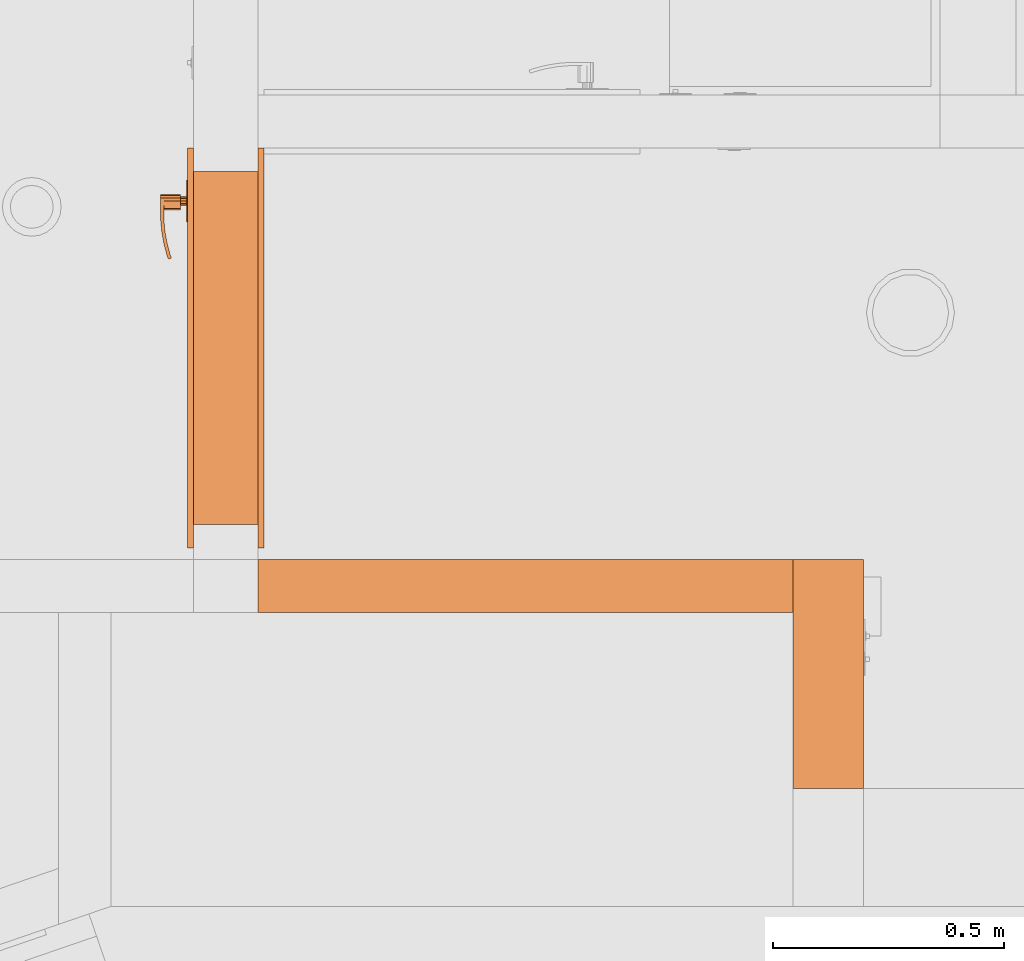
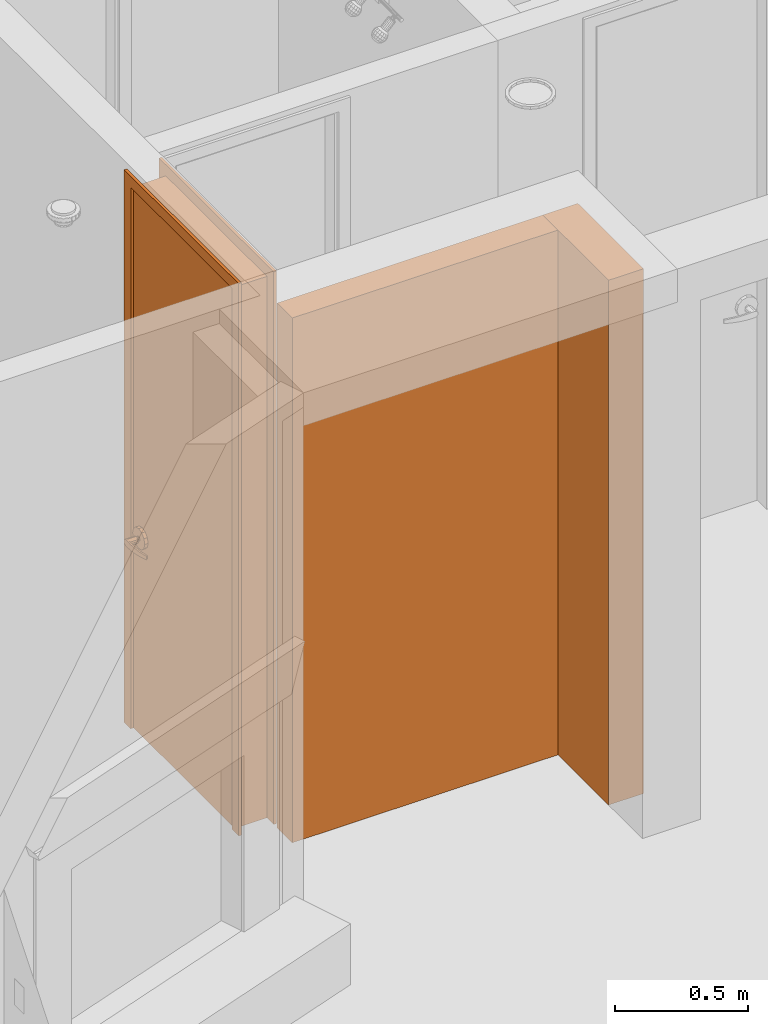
# One storey, part 40 of 48: 3 proxies.
"""IFC2X3 building model written with IfcOpenShell, lengths in inches."""

import ifcopenshell
import ifcopenshell.guid

model = None  # the IFC model being written
_history = None  # IfcOwnerHistory: only IFC2X3 demands one
_inside = {}  # id of a spatial element -> (the spatial element, [elements in it])
_under = {}  # id of a project, library or spatial element -> (it, [spatial elements below it])
_declared = {}  # id of a project -> (the project, [libraries it declares])
_typed = {}  # id of a type object -> (the type object, [elements of that type])
_made_of = {}  # id of a material, layer set ... -> (it, [elements and type objects made of it])


def new_model(schema):
    """Start an empty IFC model of exactly this schema.

    Asked for "IFC4X3", IfcOpenShell would pick the latest addendum, in which some entities
    have other attributes; the version numbers below select the first issue.
    IFC2X3 requires an IfcOwnerHistory on every rooted entity: one is made here for all.
    """
    global model, _history
    if schema == "IFC4X3":
        model = ifcopenshell.file(schema_version=(4, 3, 0, 0))
    else:
        model = ifcopenshell.file(schema=schema)
    _inside.clear()
    _under.clear()
    _declared.clear()
    _typed.clear()
    _made_of.clear()
    _history = None
    if model.schema == "IFC2X3":
        org = make("IfcOrganization", Name="unknown")
        user = make(
            "IfcPersonAndOrganization",
            ThePerson=make("IfcPerson", FamilyName="unknown"),
            TheOrganization=org,
        )
        app = make(
            "IfcApplication",
            ApplicationDeveloper=org,
            Version="unknown",
            ApplicationFullName="unknown",
            ApplicationIdentifier="unknown",
        )
        _history = make(
            "IfcOwnerHistory",
            OwningUser=user,
            OwningApplication=app,
            ChangeAction="ADDED",
            CreationDate=0,
        )
    return model


def make(cls, **values):
    """One entity of the class cls with the attributes given. An attribute that is None is left unset."""
    return model.create_entity(
        cls, **{name: value for name, value in values.items() if value is not None}
    )


def entity(cls, *values):
    """Any entity or typed value of the class cls, its attributes in the order of the schema. None: left unset."""
    e = model.create_entity(cls)
    for i, value in enumerate(values):
        if value is not None:
            e[i] = value
    return e


def rooted(cls, **values):
    """An entity with a GlobalId (a new one), such as an element, a storey or a relation."""
    return make(cls, GlobalId=ifcopenshell.guid.new(), OwnerHistory=_history, **values)


def si_unit(unit_type, name, prefix=None):
    """IfcSIUnit, for example si_unit("LENGTHUNIT", "METRE", prefix="MILLI")."""
    return make("IfcSIUnit", UnitType=unit_type, Prefix=prefix, Name=name)


def converted_unit(unit_type, name, factor, base, dimensions=None, offset=None):
    """IfcConversionBasedUnit, such as the inch: factor (a typed value) times the base unit."""
    return make(
        "IfcConversionBasedUnit"
        if offset is None
        else "IfcConversionBasedUnitWithOffset",
        ConversionOffset=offset,
        Dimensions=None
        if dimensions is None
        else entity("IfcDimensionalExponents", *dimensions),
        UnitType=unit_type,
        Name=name,
        ConversionFactor=make(
            "IfcMeasureWithUnit", ValueComponent=factor, UnitComponent=base
        ),
    )


def derived_unit(unit_type, elements):
    """IfcDerivedUnit: a product of units, each with its exponent."""
    return make(
        "IfcDerivedUnit",
        Elements=[
            make("IfcDerivedUnitElement", Unit=unit, Exponent=power)
            for unit, power in elements
        ],
        UnitType=unit_type,
    )


def money_unit(currency):
    """IfcMonetaryUnit."""
    return make("IfcMonetaryUnit", Currency=currency)


def assignment(units):
    """IfcUnitAssignment: the units of a project."""
    return None if units is None else make("IfcUnitAssignment", Units=units)


def point(xyz):
    """IfcCartesianPoint."""
    return None if xyz is None else make("IfcCartesianPoint", Coordinates=xyz)


def direction(xyz):
    """IfcDirection."""
    return None if xyz is None else make("IfcDirection", DirectionRatios=xyz)


def frame(location, z_axis=None, x_axis=None):
    """IfcAxis2Placement3D, a coordinate frame: its origin and axes. An axis left out is left unset."""
    return make(
        "IfcAxis2Placement3D",
        Location=point(location),
        Axis=direction(z_axis),
        RefDirection=direction(x_axis),
    )


def origin_with_axes():
    """The frame at (0, 0, 0) with the z axis (0, 0, 1) and the x axis (1, 0, 0) written out."""
    return frame((0.0, 0.0, 0.0), z_axis=(0.0, 0.0, 1.0), x_axis=(1.0, 0.0, 0.0))


def place(relative_to, where):
    """IfcLocalPlacement: puts the frame where relative to a parent placement (None: the world)."""
    return make(
        "IfcLocalPlacement", PlacementRelTo=relative_to, RelativePlacement=where
    )


def context(
    kind, dimensions, precision=None, world=None, true_north=None, identifier=None
):
    """IfcGeometricRepresentationContext, for example the 3D "Model" context."""
    return make(
        "IfcGeometricRepresentationContext",
        ContextIdentifier=identifier,
        ContextType=kind,
        CoordinateSpaceDimension=dimensions,
        Precision=precision,
        WorldCoordinateSystem=world,
        TrueNorth=true_north,
    )


def subcontext(parent, identifier, kind, view, scale=None):
    """IfcGeometricRepresentationSubContext, for example "Body" below "Model"."""
    return make(
        "IfcGeometricRepresentationSubContext",
        ContextIdentifier=identifier,
        ContextType=kind,
        ParentContext=parent,
        TargetScale=scale,
        TargetView=view,
    )


def project(units=None, contexts=None):
    """IfcProject with its units and contexts."""
    return rooted(
        "IfcProject",
        Name="project",
        RepresentationContexts=contexts,
        UnitsInContext=assignment(units),
    )


def spatial(cls, under=None, at=None, **own):
    """A site, building, storey or space (cls), placed at a placement, below another one or the project."""
    s = rooted(cls, ObjectPlacement=at, **own)
    if under is not None:
        _under.setdefault(under.id(), (under, []))[1].append(s)
    return s


def faces_of(points, faces, orient=None, outer=None):
    """IfcFace entities. A face is a list of loops; a loop is a list of indices into points, from 0.

    orient and outer hold one flag for each loop. By default every Orientation is true, the
    first loop of a face is its IfcFaceOuterBound and the others are IfcFaceBound.
    """
    made = []
    for i, loops in enumerate(faces):
        bounds = []
        for j, loop in enumerate(loops):
            is_outer = j == 0 if outer is None else outer[i][j]
            bounds.append(
                make(
                    "IfcFaceOuterBound" if is_outer else "IfcFaceBound",
                    Bound=make("IfcPolyLoop", Polygon=[points[k] for k in loop]),
                    Orientation=True if orient is None else orient[i][j],
                )
            )
        made.append(make("IfcFace", Bounds=bounds))
    return made


def open_shell(faces, orient=None, outer=None):
    """The faces of one IfcOpenShell. surface_model builds it on its shared points."""
    return ("IfcOpenShell", faces, orient, outer)


def faceted_brep(points, faces, orient=None, outer=None, voids=None):
    """IfcFacetedBrep: a solid bounded by flat faces; with voids (closed shells), ...WithVoids."""
    shared = [point(p) for p in points]
    hull = make("IfcClosedShell", CfsFaces=faces_of(shared, faces, orient, outer))
    if voids is None:
        return make("IfcFacetedBrep", Outer=hull)
    return make(
        "IfcFacetedBrepWithVoids",
        Outer=hull,
        Voids=[
            make(cls, CfsFaces=faces_of(shared, fs, o, b)) for cls, fs, o, b in voids
        ],
    )


def surface_model(cls, points, shells):
    """IfcFaceBasedSurfaceModel or IfcShellBasedSurfaceModel (cls): surfaces that need not close."""
    shared = [point(p) for p in points]
    made = [make(c, CfsFaces=faces_of(shared, fs, o, b)) for c, fs, o, b in shells]
    if cls == "IfcFaceBasedSurfaceModel":
        return make(cls, FbsmFaces=made)
    return make(cls, SbsmBoundary=made)


def shape(context_of_items, identifier, shape_type, items):
    """IfcShapeRepresentation: the items that make up one representation, for example the "Body"."""
    return make(
        "IfcShapeRepresentation",
        ContextOfItems=context_of_items,
        RepresentationIdentifier=identifier,
        RepresentationType=shape_type,
        Items=items,
    )


def material(Name=None, Category=None):
    """IfcMaterial."""
    return make("IfcMaterial", Name=Name, Category=Category)


def made_of(thing, what):
    """Note that an element or type object is made of a material, layer set ...; save() writes the relation."""
    if what is not None:
        _made_of.setdefault(what.id(), (what, []))[1].append(thing)
    return thing


def type_object(cls, material=None, **own):
    """A type object (cls), such as IfcWallType, which elements share."""
    return made_of(rooted(cls, **own), material)


def element(
    cls,
    number,
    at=None,
    inside=None,
    cuts=None,
    type_object=None,
    material=None,
    context=None,
    identifier="Body",
    shape_type=None,
    held_by="IfcProductDefinitionShape",
    body=None,
    shapes=None,
    **own,
):
    """One element of the class cls, such as IfcWall. Its Tag is "e" and its number.

    at: its placement. inside: the storey or other place that contains it. cuts: it is an
    opening in that element (IfcRelVoidsElement). A single representation is given by context,
    identifier, shape_type and body (its items); several are given by shapes. held_by: the class
    of the entity that holds the representations. save() writes the other relations.
    """
    e = rooted(cls, Tag="e%d" % number, ObjectPlacement=at, **own)
    if body is not None:
        shapes = [shape(context, identifier, shape_type, body)]
    if shapes is not None:
        e.Representation = make(held_by, Representations=shapes)
    if inside is not None:
        _inside.setdefault(inside.id(), (inside, []))[1].append(e)
    if cuts is not None:
        rooted(
            "IfcRelVoidsElement", RelatingBuildingElement=cuts, RelatedOpeningElement=e
        )
    if type_object is not None:
        _typed.setdefault(type_object.id(), (type_object, []))[1].append(e)
    return made_of(e, material)


def aggregate(whole, parts):
    """IfcRelAggregates: a whole, such as a stair, and the parts it consists of."""
    return rooted("IfcRelAggregates", RelatingObject=whole, RelatedObjects=parts)


def save(model, path):
    """Write the relations noted so far, then the file.

    IfcRelAggregates (storeys below a building ...), IfcRelContainedInSpatialStructure (elements
    in a storey), IfcRelDefinesByType, IfcRelAssociatesMaterial and IfcRelDeclares: one each for
    every whole, place, type object, material and project.
    """
    for whole, parts in _under.values():
        aggregate(whole, parts)
    for where, things in _inside.values():
        rooted(
            "IfcRelContainedInSpatialStructure",
            RelatedElements=things,
            RelatingStructure=where,
        )
    for kind, things in _typed.values():
        rooted("IfcRelDefinesByType", RelatedObjects=things, RelatingType=kind)
    for what, things in _made_of.values():
        rooted("IfcRelAssociatesMaterial", RelatedObjects=things, RelatingMaterial=what)
    for by, libraries in _declared.values():
        rooted("IfcRelDeclares", RelatingContext=by, RelatedDefinitions=libraries)
    model.write(path)


model = new_model("IFC2X3")

# Units and contexts
model_context = context("Model", 3, precision=0.00039370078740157, world=origin_with_axes(), true_north=direction((0.0, 1.0)))
plan_context = context("Plan", 3, precision=0.00039370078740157, world=origin_with_axes(), true_north=direction((0.0, 1.0)))
body_context = subcontext(model_context, "Body", "Model", "MODEL_VIEW")
ifc_project = project(units=[converted_unit("LENGTHUNIT", "INCH", entity("IfcPositiveLengthMeasure", 0.0254), si_unit("LENGTHUNIT", "METRE"), dimensions=[1, 0, 0, 0, 0, 0, 0]), converted_unit("AREAUNIT", "SQUARE_FOOT", entity("IfcPositiveLengthMeasure", 0.09290304), si_unit("AREAUNIT", "SQUARE_METRE"), dimensions=[2, 0, 0, 0, 0, 0, 0]), si_unit("PLANEANGLEUNIT", "RADIAN"), si_unit("SOLIDANGLEUNIT", "STERADIAN"), money_unit("USD"), converted_unit("TIMEUNIT", "Year", entity("IfcTimeMeasure", 31557600.0), si_unit("TIMEUNIT", "SECOND"), dimensions=[0, 0, 1, 0, 0, 0, 0]), si_unit("MASSUNIT", "GRAM", prefix="KILO"), si_unit("THERMODYNAMICTEMPERATUREUNIT", "DEGREE_CELSIUS"), si_unit("LUMINOUSINTENSITYUNIT", "LUMEN"), si_unit("ENERGYUNIT", "JOULE", prefix="MEGA"), derived_unit("SPECIFICHEATCAPACITYUNIT", [(si_unit("ENERGYUNIT", "JOULE"), 1), (si_unit("MASSUNIT", "GRAM", prefix="KILO"), -1), (si_unit("THERMODYNAMICTEMPERATUREUNIT", "KELVIN"), -1)])], contexts=[model_context, plan_context])

# Site, building, storey
site_placement = place(None, origin_with_axes())
site = spatial("IfcSite", under=ifc_project, at=site_placement, Name="Site", CompositionType="ELEMENT")
building_placement = place(site_placement, origin_with_axes())
building = spatial("IfcBuilding", under=site, at=building_placement, Name="Building", CompositionType="ELEMENT")
storey_placement = place(building_placement, origin_with_axes())
storey = spatial("IfcBuildingStorey", under=building, at=storey_placement, Name="First Floor", CompositionType="ELEMENT", Elevation=0.0)

# Proxies
ifc_material = material(Name="Generic - Structural")
building_element_proxy_type_1 = type_object("IfcBuildingElementProxyType", Name="Generic - Structural 4 1/2\"", PredefinedType="NOTDEFINED")
proxy_1_placement = place(storey_placement, frame((-120.9999999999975, 386.9999999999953, 0.0), z_axis=(0.0, 0.0, 1.0), x_axis=(1.0, 0.0, 0.0)))
element("IfcBuildingElementProxy", 1, at=proxy_1_placement, inside=storey, type_object=building_element_proxy_type_1, material=ifc_material, Name="SW - 051", context=body_context, shape_type="Brep", body=[
    faceted_brep([(50.99999999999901, 0.0, 0.0), (50.99999999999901, -4.499999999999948, 0.0), (5.49999999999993, -4.499999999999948, 0.0), (5.49999999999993, 0.0, 0.0), (50.99999999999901, 0.0, 94.99999999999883), (50.99999999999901, -4.499999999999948, 94.99999999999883), (5.49999999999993, -4.499999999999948, 94.99999999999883), (5.49999999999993, 0.0, 94.99999999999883)], [[[0, 1, 2, 3]], [[1, 0, 4, 5]], [[1, 5, 6, 2]], [[7, 3, 2, 6]], [[4, 0, 3, 7]], [[5, 4, 7, 6]]]),
])
building_element_proxy_type_2 = type_object("IfcBuildingElementProxyType", Name="D1", PredefinedType="NOTDEFINED")
proxy_2_placement = place(storey_placement, frame((-120.9999999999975, 389.9999999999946, 0.0), z_axis=(0.0, 0.0, 1.0), x_axis=(0.0, 1.0, 0.0)))
element("IfcBuildingElementProxy", 2, at=proxy_2_placement, inside=storey, type_object=building_element_proxy_type_2, Name="D-10", context=body_context, shape_type="SurfaceModel", body=[
    faceted_brep([(31.99999999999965, 0.5000000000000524, 0.0), (31.99999999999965, 0.0, 0.0), (29.99999999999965, 0.0, 0.0), (29.99999999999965, 0.5000000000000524, 0.0), (31.99999999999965, 0.5000000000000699, 99.99999999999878), (31.99999999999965, 0.0, 99.99999999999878), (29.99999999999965, 0.0, 97.99999999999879), (29.99999999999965, 0.5000000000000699, 97.99999999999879)], [[[0, 1, 2, 3]], [[4, 5, 1, 0]], [[1, 5, 6, 2]], [[3, 2, 6, 7]], [[0, 3, 7, 4]], [[7, 6, 5, 4]]]),
    faceted_brep([(-2.0, 0.5000000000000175, 99.99999999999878), (-2.0, 0.0, 99.99999999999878), (0.0, 0.0, 97.99999999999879), (0.0, 0.5000000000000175, 97.99999999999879), (-2.0, 0.5, 0.0), (-2.0, 0.0, 0.0), (0.0, 0.0, 0.0), (0.0, 0.5, 0.0)], [[[0, 1, 2, 3]], [[4, 5, 1, 0]], [[1, 5, 6, 2]], [[3, 2, 6, 7]], [[0, 3, 7, 4]], [[7, 6, 5, 4]]]),
    faceted_brep([(31.99999999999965, 0.5000000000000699, 99.99999999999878), (31.99999999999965, 0.0, 99.99999999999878), (29.99999999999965, 0.0, 97.99999999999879), (29.99999999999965, 0.5000000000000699, 97.99999999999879), (-2.0, 0.5000000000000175, 99.99999999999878), (-2.0, 0.0, 99.99999999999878), (0.0, 0.0, 97.99999999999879), (0.0, 0.5000000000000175, 97.99999999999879)], [[[0, 1, 2, 3]], [[4, 5, 1, 0]], [[1, 5, 6, 2]], [[3, 2, 6, 7]], [[0, 3, 7, 4]], [[7, 6, 5, 4]]]),
    faceted_brep([(31.99999999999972, -5.999999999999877, 0.0), (29.99999999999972, -5.999999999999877, 0.0), (29.99999999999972, -5.499999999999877, 0.0), (31.99999999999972, -5.499999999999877, 0.0), (31.99999999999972, -5.999999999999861, 99.99999999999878), (29.99999999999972, -5.999999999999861, 97.99999999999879), (29.99999999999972, -5.499999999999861, 97.99999999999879), (31.99999999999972, -5.499999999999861, 99.99999999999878)], [[[0, 1, 2, 3]], [[0, 4, 5, 1]], [[1, 5, 6, 2]], [[3, 2, 6, 7]], [[4, 0, 3, 7]], [[5, 4, 7, 6]]]),
    faceted_brep([(-1.99999999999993, -5.999999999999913, 99.99999999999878), (0.0, -5.999999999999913, 97.99999999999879), (0.0, -5.499999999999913, 97.99999999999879), (-1.99999999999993, -5.499999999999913, 99.99999999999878), (-1.99999999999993, -5.99999999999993, 0.0), (0.0, -5.99999999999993, 0.0), (0.0, -5.49999999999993, 0.0), (-1.99999999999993, -5.49999999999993, 0.0)], [[[0, 1, 2, 3]], [[0, 4, 5, 1]], [[1, 5, 6, 2]], [[3, 2, 6, 7]], [[4, 0, 3, 7]], [[5, 4, 7, 6]]]),
    faceted_brep([(31.99999999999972, -5.999999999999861, 99.99999999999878), (29.99999999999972, -5.999999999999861, 97.99999999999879), (29.99999999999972, -5.499999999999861, 97.99999999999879), (31.99999999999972, -5.499999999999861, 99.99999999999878), (-1.99999999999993, -5.999999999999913, 99.99999999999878), (0.0, -5.999999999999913, 97.99999999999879), (0.0, -5.499999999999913, 97.99999999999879), (-1.99999999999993, -5.499999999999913, 99.99999999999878)], [[[0, 1, 2, 3]], [[0, 4, 5, 1]], [[1, 5, 6, 2]], [[3, 2, 6, 7]], [[4, 0, 3, 7]], [[5, 4, 7, 6]]]),
    faceted_brep([(29.99999999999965, 0.0, 0.0), (29.99999999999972, -5.499999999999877, 0.0), (29.4999999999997, -5.499999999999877, 0.0), (29.49999999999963, 0.0, 0.0), (29.99999999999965, 0.0, 97.49999999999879), (29.99999999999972, -5.499999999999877, 97.49999999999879), (29.4999999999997, -5.499999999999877, 97.49999999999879), (29.49999999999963, 0.0, 97.49999999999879)], [[[0, 1, 2, 3]], [[4, 5, 1, 0]], [[1, 5, 6, 2]], [[3, 2, 6, 7]], [[0, 3, 7, 4]], [[7, 6, 5, 4]]]),
    faceted_brep([(0.0, 0.0, 0.0), (0.0, -5.49999999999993, 0.0), (0.0, -5.49999999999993, 97.49999999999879), (0.0, 0.0, 97.49999999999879), (0.5000000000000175, 0.0, 0.0), (0.5000000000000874, -5.49999999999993, 0.0), (0.5000000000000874, -5.49999999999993, 97.49999999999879), (0.5000000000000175, 0.0, 97.49999999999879)], [[[0, 1, 2, 3]], [[4, 5, 1, 0]], [[1, 5, 6, 2]], [[3, 2, 6, 7]], [[0, 3, 7, 4]], [[7, 6, 5, 4]]]),
    faceted_brep([(29.99999999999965, 0.0, 97.99999999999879), (29.99999999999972, -5.499999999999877, 97.99999999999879), (29.99999999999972, -5.499999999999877, 97.49999999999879), (29.99999999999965, 0.0, 97.49999999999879), (0.0, 0.0, 97.99999999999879), (0.0, -5.49999999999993, 97.99999999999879), (0.0, -5.49999999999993, 97.49999999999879), (0.5000000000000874, -5.49999999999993, 97.49999999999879), (29.4999999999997, -5.499999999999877, 97.49999999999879), (29.49999999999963, 0.0, 97.49999999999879), (0.5000000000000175, 0.0, 97.49999999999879), (0.0, 0.0, 97.49999999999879)], [[[0, 1, 2, 3]], [[4, 5, 1, 0]], [[1, 5, 6, 7, 8, 2]], [[3, 2, 8, 9]], [[0, 3, 9, 10, 11, 4]], [[11, 6, 5, 4]], [[10, 7, 6, 11]], [[9, 8, 7, 10]]]),
    surface_model("IfcShellBasedSurfaceModel", [(25.94865528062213, -2.340551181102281, 36.89566929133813), (25.94865528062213, -2.336614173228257, 36.89566929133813), (25.70866141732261, -2.336614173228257, 35.99999999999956), (25.70866141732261, -2.340551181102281, 35.99999999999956), (26.60433070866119, -2.340551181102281, 37.55134471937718), (26.60433070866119, -2.336614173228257, 37.55134471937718), (25.94865528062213, -1.753937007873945, 36.89566929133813), (25.70866141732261, -1.753937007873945, 35.99999999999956), (25.94865528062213, -2.336614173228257, 35.10433070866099), (25.94865528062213, -2.340551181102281, 35.10433070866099), (26.60433070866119, -2.340551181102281, 34.44865528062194), (27.49999999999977, -2.340551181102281, 34.20866141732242), (28.39566929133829, -2.340551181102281, 34.44865528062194), (29.05134471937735, -2.340551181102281, 35.10433070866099), (29.29133858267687, -2.340551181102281, 35.99999999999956), (29.05134471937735, -2.340551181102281, 36.89566929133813), (28.39566929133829, -2.340551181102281, 37.55134471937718), (27.49999999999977, -2.340551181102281, 37.7913385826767), (27.49999999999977, -2.336614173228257, 37.7913385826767), (26.60433070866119, -1.753937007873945, 37.55134471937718), (25.94865528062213, -1.749999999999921, 36.89566929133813), (25.70866141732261, -1.749999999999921, 35.99999999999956), (25.94865528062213, -1.753937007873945, 35.10433070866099), (26.60433070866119, -2.336614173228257, 34.44865528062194), (27.49999999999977, -2.336614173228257, 34.20866141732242), (28.39566929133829, -2.336614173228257, 34.44865528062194), (29.05134471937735, -2.336614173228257, 35.10433070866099), (29.29133858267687, -2.336614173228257, 35.99999999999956), (29.05134471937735, -2.336614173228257, 36.89566929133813), (28.39566929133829, -2.336614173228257, 37.55134471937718), (27.49999999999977, -1.753937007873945, 37.7913385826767), (26.60433070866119, -1.749999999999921, 37.55134471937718), (25.94865528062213, -1.749999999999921, 35.10433070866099), (26.60433070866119, -1.753937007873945, 34.44865528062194), (27.49999999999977, -1.753937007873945, 34.20866141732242), (28.39566929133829, -1.753937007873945, 34.44865528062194), (29.05134471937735, -1.753937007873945, 35.10433070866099), (29.29133858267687, -1.753937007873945, 35.99999999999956), (29.05134471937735, -1.753937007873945, 36.89566929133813), (28.39566929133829, -1.753937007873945, 37.55134471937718), (27.49999999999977, -1.749999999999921, 37.7913385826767), (26.60433070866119, -1.749999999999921, 34.44865528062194), (27.49999999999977, -1.749999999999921, 34.20866141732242), (28.39566929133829, -1.749999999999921, 34.44865528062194), (29.05134471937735, -1.749999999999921, 35.10433070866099), (29.29133858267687, -1.749999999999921, 35.99999999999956), (29.05134471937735, -1.749999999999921, 36.89566929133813), (28.39566929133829, -1.749999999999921, 37.55134471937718)], [open_shell([[[0, 1, 2, 3]], [[4, 5, 1, 0]], [[1, 6, 7, 2]], [[3, 2, 8, 9]], [[3, 9, 10, 11, 12, 13, 14, 15, 16, 17, 4, 0]], [[17, 18, 5, 4]], [[5, 19, 6, 1]], [[6, 20, 21, 7]], [[2, 7, 22, 8]], [[9, 8, 23, 10]], [[10, 23, 24, 11]], [[11, 24, 25, 12]], [[12, 25, 26, 13]], [[13, 26, 27, 14]], [[14, 27, 28, 15]], [[15, 28, 29, 16]], [[16, 29, 18, 17]], [[18, 30, 19, 5]], [[19, 31, 20, 6]], [[7, 21, 32, 22]], [[8, 22, 33, 23]], [[23, 33, 34, 24]], [[24, 34, 35, 25]], [[25, 35, 36, 26]], [[26, 36, 37, 27]], [[27, 37, 38, 28]], [[28, 38, 39, 29]], [[29, 39, 30, 18]], [[30, 40, 31, 19]], [[22, 32, 41, 33]], [[33, 41, 42, 34]], [[34, 42, 43, 35]], [[35, 43, 44, 36]], [[36, 44, 45, 37]], [[37, 45, 46, 38]], [[38, 46, 47, 39]], [[39, 47, 40, 30]]])]),
    faceted_brep([(27.69685039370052, -2.340551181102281, 35.65904511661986), (27.49999999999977, -2.340551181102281, 35.60629921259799), (27.30314960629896, -2.340551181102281, 35.65904511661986), (27.15904511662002, -2.340551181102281, 35.80314960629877), (27.10629921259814, -2.340551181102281, 35.99999999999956), (27.15904511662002, -2.340551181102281, 36.19685039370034), (27.30314960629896, -2.340551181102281, 36.34095488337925), (27.49999999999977, -2.340551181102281, 36.39370078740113), (27.69685039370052, -2.340551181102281, 36.34095488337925), (27.84095488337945, -2.340551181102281, 36.19685039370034), (27.89370078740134, -2.340551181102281, 35.99999999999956), (27.84095488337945, -2.340551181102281, 35.80314960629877), (27.69685039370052, -2.852362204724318, 35.65904511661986), (27.49999999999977, -2.852362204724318, 35.60629921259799), (27.30314960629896, -2.852362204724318, 35.65904511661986), (27.15904511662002, -2.852362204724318, 35.80314960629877), (27.10629921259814, -2.852362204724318, 35.99999999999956), (27.15904511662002, -2.852362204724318, 36.19685039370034), (27.30314960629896, -2.852362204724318, 36.34095488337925), (27.49999999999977, -2.852362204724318, 36.39370078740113), (27.69685039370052, -2.852362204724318, 36.34095488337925), (27.84095488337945, -2.852362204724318, 36.19685039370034), (27.89370078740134, -2.852362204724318, 35.99999999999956), (27.84095488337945, -2.852362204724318, 35.80314960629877)], [[[0, 1, 2, 3, 4, 5, 6, 7, 8, 9, 10, 11]], [[0, 12, 13, 1]], [[1, 13, 14, 2]], [[2, 14, 15, 3]], [[3, 15, 16, 4]], [[4, 16, 17, 5]], [[5, 17, 18, 6]], [[6, 18, 19, 7]], [[7, 19, 20, 8]], [[8, 20, 21, 9]], [[9, 21, 22, 10]], [[10, 22, 23, 11]], [[11, 23, 12, 0]], [[12, 23, 22, 21, 20, 19, 18, 17, 16, 15, 14, 13]]]),
    faceted_brep([(27.49999999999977, -2.852362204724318, 36.55118110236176), (27.49999999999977, -4.269685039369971, 36.55118110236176), (27.77559055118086, -4.269685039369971, 36.47733683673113), (27.77559055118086, -2.852362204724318, 36.47733683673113), (27.10629921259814, -2.852362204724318, 36.47244094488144), (27.10629921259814, -4.269685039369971, 36.47244094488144), (26.87352117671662, -4.269685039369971, 36.35358914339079), (26.73705189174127, -4.269685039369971, 36.13068221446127), (26.73705189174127, -4.269685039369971, 35.86931778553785), (26.87352117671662, -4.269685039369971, 35.64641085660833), (27.10629921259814, -4.269685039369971, 35.52755905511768), (27.49999999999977, -4.269685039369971, 35.44881889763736), (27.77559055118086, -4.269685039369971, 35.52266316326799), (27.9773368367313, -4.269685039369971, 35.72440944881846), (28.05118110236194, -4.269685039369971, 35.99999999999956), (27.9773368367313, -4.269685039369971, 36.27559055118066), (27.9773368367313, -2.852362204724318, 36.27559055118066), (28.05118110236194, -2.852362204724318, 35.99999999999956), (27.9773368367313, -2.852362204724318, 35.72440944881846), (27.77559055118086, -2.852362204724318, 35.52266316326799), (27.49999999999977, -2.852362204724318, 35.44881889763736), (27.10629921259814, -2.852362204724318, 35.52755905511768), (26.87352117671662, -2.852362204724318, 35.64641085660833), (26.73705189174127, -2.852362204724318, 35.86931778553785), (26.73705189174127, -2.852362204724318, 36.13068221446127), (26.87352117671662, -2.852362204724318, 36.35358914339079)], [[[0, 1, 2, 3]], [[4, 5, 1, 0]], [[1, 5, 6, 7, 8, 9, 10, 11, 12, 13, 14, 15, 2]], [[3, 2, 15, 16]], [[0, 3, 16, 17, 18, 19, 20, 21, 22, 23, 24, 25, 4]], [[25, 6, 5, 4]], [[24, 7, 6, 25]], [[23, 8, 7, 24]], [[22, 9, 8, 23]], [[21, 10, 9, 22]], [[20, 11, 10, 21]], [[19, 12, 11, 20]], [[18, 13, 12, 19]], [[17, 14, 13, 18]], [[16, 15, 14, 17]]]),
    surface_model("IfcShellBasedSurfaceModel", [(27.49999999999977, -4.269685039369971, 36.55118110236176), (27.49999999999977, -4.545275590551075, 36.55118110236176), (27.77559055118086, -4.545275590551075, 36.47733683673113), (27.77559055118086, -4.269685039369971, 36.47733683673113), (26.51574803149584, -4.269685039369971, 36.55118110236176), (26.51574803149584, -4.545275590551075, 36.55118110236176), (26.51574803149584, -4.545275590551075, 35.44881889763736), (27.49999999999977, -4.545275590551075, 35.44881889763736), (27.77559055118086, -4.545275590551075, 35.52266316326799), (27.9773368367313, -4.545275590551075, 35.72440944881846), (28.05118110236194, -4.545275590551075, 35.99999999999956), (27.9773368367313, -4.545275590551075, 36.27559055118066), (27.9773368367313, -4.269685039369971, 36.27559055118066), (28.05118110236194, -4.269685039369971, 35.99999999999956), (27.9773368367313, -4.269685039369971, 35.72440944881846), (27.77559055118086, -4.269685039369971, 35.52266316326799), (27.49999999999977, -4.269685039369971, 35.44881889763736), (26.51574803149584, -4.269685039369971, 35.44881889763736)], [open_shell([[[0, 1, 2, 3]], [[4, 5, 1, 0]], [[1, 5, 6, 7, 8, 9, 10, 11, 2]], [[3, 2, 11, 12]], [[0, 3, 12, 13, 14, 15, 16, 17, 4]], [[16, 7, 6, 17]], [[15, 8, 7, 16]], [[14, 9, 8, 15]], [[13, 10, 9, 14]], [[12, 11, 10, 13]]])]),
    surface_model("IfcShellBasedSurfaceModel", [(26.51574803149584, -4.269685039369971, 35.44881889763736), (25.9880350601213, -4.545275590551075, 35.47974008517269), (26.00006760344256, -4.269685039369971, 35.47974008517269), (26.51574803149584, -4.545275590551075, 35.44881889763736), (24.93662533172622, -4.453289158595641, 35.54158246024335), (26.00006760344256, -4.269685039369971, 36.52025991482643), (26.51574803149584, -4.269685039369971, 36.55118110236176), (26.51574803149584, -4.545275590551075, 36.55118110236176), (25.9880350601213, -4.545275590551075, 36.52025991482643), (24.93662533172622, -4.453289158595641, 36.45841753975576), (24.97263138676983, -4.179796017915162, 35.54158246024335), (24.97263138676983, -4.179796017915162, 36.45841753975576), (23.89723368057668, -4.270016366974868, 36.3965751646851), (23.89723368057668, -4.270016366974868, 35.60342483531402), (23.95693921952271, -4.000702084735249, 35.60342483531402), (23.95693921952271, -4.000702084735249, 36.3965751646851), (22.87777050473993, -3.996852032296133, 36.33473278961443), (22.87777050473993, -3.996852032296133, 35.66526721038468), (22.96072113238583, -3.733766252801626, 35.66526721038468), (22.96072113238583, -3.733766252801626, 36.33473278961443), (22.56058250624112, -3.881405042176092, 36.31496062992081), (22.56058250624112, -3.881405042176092, 35.6850393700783), (22.65076543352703, -3.620951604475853, 35.6850393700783), (22.65076543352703, -3.620951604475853, 36.31496062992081)], [open_shell([[[0, 1, 2]], [[0, 3, 1]], [[2, 1, 4]], [[0, 2, 5, 6]], [[3, 7, 8, 1]], [[1, 8, 9, 4]], [[2, 4, 10]], [[2, 10, 11, 5]], [[5, 7, 6]], [[5, 8, 7]], [[11, 9, 8]], [[4, 9, 12, 13]], [[10, 4, 13]], [[10, 14, 15, 11]], [[11, 8, 5]], [[15, 9, 11]], [[15, 12, 9]], [[13, 12, 16, 17]], [[10, 13, 14]], [[14, 18, 19, 15]], [[19, 12, 15]], [[19, 16, 12]], [[17, 16, 20, 21]], [[14, 13, 17]], [[14, 17, 18]], [[18, 22, 23, 19]], [[23, 16, 19]], [[23, 20, 16]], [[22, 21, 20, 23]], [[18, 17, 21]], [[18, 21, 22]]])]),
    surface_model("IfcShellBasedSurfaceModel", [(25.94865528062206, 0.5905511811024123, 36.89566929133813), (25.70866141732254, 0.5905511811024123, 35.99999999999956), (25.70866141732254, 0.5866141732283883, 35.99999999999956), (25.94865528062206, 0.5866141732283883, 36.89566929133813), (26.60433070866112, 0.5905511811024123, 37.55134471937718), (27.4999999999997, 0.5905511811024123, 37.7913385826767), (28.39566929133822, 0.5905511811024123, 37.55134471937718), (29.05134471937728, 0.5905511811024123, 36.89566929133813), (29.2913385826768, 0.5905511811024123, 35.99999999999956), (29.05134471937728, 0.5905511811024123, 35.10433070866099), (28.39566929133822, 0.5905511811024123, 34.44865528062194), (27.4999999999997, 0.5905511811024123, 34.20866141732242), (26.60433070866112, 0.5905511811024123, 34.44865528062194), (25.94865528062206, 0.5905511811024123, 35.10433070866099), (25.94865528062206, 0.5866141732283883, 35.10433070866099), (25.70866141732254, 0.00393700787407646, 35.99999999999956), (25.94865528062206, 0.00393700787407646, 36.89566929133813), (26.60433070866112, 0.5866141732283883, 37.55134471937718), (27.4999999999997, 0.5866141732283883, 37.7913385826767), (28.39566929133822, 0.5866141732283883, 37.55134471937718), (29.05134471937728, 0.5866141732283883, 36.89566929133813), (29.2913385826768, 0.5866141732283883, 35.99999999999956), (29.05134471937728, 0.5866141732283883, 35.10433070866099), (28.39566929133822, 0.5866141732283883, 34.44865528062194), (27.4999999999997, 0.5866141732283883, 34.20866141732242), (26.60433070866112, 0.5866141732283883, 34.44865528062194), (25.94865528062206, 0.00393700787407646, 35.10433070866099), (25.70866141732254, 0.0, 35.99999999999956), (25.94865528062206, 0.0, 36.89566929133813), (26.60433070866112, 0.00393700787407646, 37.55134471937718), (27.4999999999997, 0.00393700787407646, 37.7913385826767), (28.39566929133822, 0.00393700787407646, 37.55134471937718), (29.05134471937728, 0.00393700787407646, 36.89566929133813), (29.2913385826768, 0.00393700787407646, 35.99999999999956), (29.05134471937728, 0.00393700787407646, 35.10433070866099), (28.39566929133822, 0.00393700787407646, 34.44865528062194), (27.4999999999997, 0.00393700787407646, 34.20866141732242), (26.60433070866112, 0.00393700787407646, 34.44865528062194), (25.94865528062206, 0.0, 35.10433070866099), (26.60433070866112, 0.0, 37.55134471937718), (27.4999999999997, 0.0, 37.7913385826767), (28.39566929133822, 0.0, 37.55134471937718), (29.05134471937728, 0.0, 36.89566929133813), (29.2913385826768, 0.0, 35.99999999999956), (29.05134471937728, 0.0, 35.10433070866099), (28.39566929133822, 0.0, 34.44865528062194), (27.4999999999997, 0.0, 34.20866141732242), (26.60433070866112, 0.0, 34.44865528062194)], [open_shell([[[0, 1, 2, 3]], [[1, 0, 4, 5, 6, 7, 8, 9, 10, 11, 12, 13]], [[1, 13, 14, 2]], [[3, 2, 15, 16]], [[4, 0, 3, 17]], [[5, 4, 17, 18]], [[6, 5, 18, 19]], [[7, 6, 19, 20]], [[8, 7, 20, 21]], [[9, 8, 21, 22]], [[10, 9, 22, 23]], [[11, 10, 23, 24]], [[12, 11, 24, 25]], [[13, 12, 25, 14]], [[2, 14, 26, 15]], [[16, 15, 27, 28]], [[17, 3, 16, 29]], [[18, 17, 29, 30]], [[19, 18, 30, 31]], [[20, 19, 31, 32]], [[21, 20, 32, 33]], [[22, 21, 33, 34]], [[23, 22, 34, 35]], [[24, 23, 35, 36]], [[25, 24, 36, 37]], [[14, 25, 37, 26]], [[15, 26, 38, 27]], [[29, 16, 28, 39]], [[30, 29, 39, 40]], [[31, 30, 40, 41]], [[32, 31, 41, 42]], [[33, 32, 42, 43]], [[34, 33, 43, 44]], [[35, 34, 44, 45]], [[36, 35, 45, 46]], [[37, 36, 46, 47]], [[26, 37, 47, 38]]])]),
    faceted_brep([(27.69685039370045, 0.5905511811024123, 35.65904511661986), (27.84095488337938, 0.5905511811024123, 35.80314960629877), (27.89370078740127, 0.5905511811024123, 35.99999999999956), (27.84095488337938, 0.5905511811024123, 36.19685039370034), (27.69685039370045, 0.5905511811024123, 36.34095488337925), (27.4999999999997, 0.5905511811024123, 36.39370078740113), (27.30314960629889, 0.5905511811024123, 36.34095488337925), (27.15904511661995, 0.5905511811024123, 36.19685039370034), (27.10629921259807, 0.5905511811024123, 35.99999999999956), (27.15904511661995, 0.5905511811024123, 35.80314960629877), (27.30314960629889, 0.5905511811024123, 35.65904511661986), (27.4999999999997, 0.5905511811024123, 35.60629921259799), (27.69685039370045, 1.102362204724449, 35.65904511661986), (27.84095488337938, 1.102362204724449, 35.80314960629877), (27.89370078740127, 1.102362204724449, 35.99999999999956), (27.84095488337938, 1.102362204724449, 36.19685039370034), (27.69685039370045, 1.102362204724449, 36.34095488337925), (27.4999999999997, 1.102362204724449, 36.39370078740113), (27.30314960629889, 1.102362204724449, 36.34095488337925), (27.15904511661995, 1.102362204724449, 36.19685039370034), (27.10629921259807, 1.102362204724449, 35.99999999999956), (27.15904511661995, 1.102362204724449, 35.80314960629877), (27.30314960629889, 1.102362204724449, 35.65904511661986), (27.4999999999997, 1.102362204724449, 35.60629921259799)], [[[0, 1, 2, 3, 4, 5, 6, 7, 8, 9, 10, 11]], [[1, 0, 12, 13]], [[2, 1, 13, 14]], [[3, 2, 14, 15]], [[4, 3, 15, 16]], [[5, 4, 16, 17]], [[6, 5, 17, 18]], [[7, 6, 18, 19]], [[8, 7, 19, 20]], [[9, 8, 20, 21]], [[10, 9, 21, 22]], [[11, 10, 22, 23]], [[0, 11, 23, 12]], [[12, 23, 22, 21, 20, 19, 18, 17, 16, 15, 14, 13]]]),
    faceted_brep([(27.4999999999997, 1.102362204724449, 36.55118110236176), (27.77559055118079, 1.102362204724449, 36.47733683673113), (27.77559055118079, 2.519685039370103, 36.47733683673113), (27.4999999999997, 2.519685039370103, 36.55118110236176), (27.10629921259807, 1.102362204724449, 36.47244094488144), (26.87352117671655, 1.102362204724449, 36.35358914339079), (26.7370518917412, 1.102362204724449, 36.13068221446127), (26.7370518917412, 1.102362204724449, 35.86931778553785), (26.87352117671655, 1.102362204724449, 35.64641085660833), (27.10629921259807, 1.102362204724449, 35.52755905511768), (27.4999999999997, 1.102362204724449, 35.44881889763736), (27.77559055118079, 1.102362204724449, 35.52266316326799), (27.97733683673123, 1.102362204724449, 35.72440944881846), (28.05118110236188, 1.102362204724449, 35.99999999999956), (27.97733683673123, 1.102362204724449, 36.27559055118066), (27.97733683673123, 2.519685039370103, 36.27559055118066), (28.05118110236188, 2.519685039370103, 35.99999999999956), (27.97733683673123, 2.519685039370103, 35.72440944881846), (27.77559055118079, 2.519685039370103, 35.52266316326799), (27.4999999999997, 2.519685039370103, 35.44881889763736), (27.10629921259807, 2.519685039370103, 35.52755905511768), (26.87352117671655, 2.519685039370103, 35.64641085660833), (26.7370518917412, 2.519685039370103, 35.86931778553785), (26.7370518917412, 2.519685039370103, 36.13068221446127), (26.87352117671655, 2.519685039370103, 36.35358914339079), (27.10629921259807, 2.519685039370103, 36.47244094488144)], [[[0, 1, 2, 3]], [[0, 4, 5, 6, 7, 8, 9, 10, 11, 12, 13, 14, 1]], [[1, 14, 15, 2]], [[3, 2, 15, 16, 17, 18, 19, 20, 21, 22, 23, 24, 25]], [[4, 0, 3, 25]], [[5, 4, 25, 24]], [[6, 5, 24, 23]], [[7, 6, 23, 22]], [[8, 7, 22, 21]], [[9, 8, 21, 20]], [[10, 9, 20, 19]], [[11, 10, 19, 18]], [[12, 11, 18, 17]], [[13, 12, 17, 16]], [[14, 13, 16, 15]]]),
    surface_model("IfcShellBasedSurfaceModel", [(27.4999999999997, 2.519685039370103, 36.55118110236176), (27.77559055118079, 2.519685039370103, 36.47733683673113), (27.77559055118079, 2.795275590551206, 36.47733683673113), (27.4999999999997, 2.795275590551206, 36.55118110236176), (26.51574803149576, 2.519685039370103, 36.55118110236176), (26.51574803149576, 2.519685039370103, 35.44881889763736), (27.4999999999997, 2.519685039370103, 35.44881889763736), (27.77559055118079, 2.519685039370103, 35.52266316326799), (27.97733683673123, 2.519685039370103, 35.72440944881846), (28.05118110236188, 2.519685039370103, 35.99999999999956), (27.97733683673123, 2.519685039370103, 36.27559055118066), (27.97733683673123, 2.795275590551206, 36.27559055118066), (28.05118110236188, 2.795275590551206, 35.99999999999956), (27.97733683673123, 2.795275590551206, 35.72440944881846), (27.77559055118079, 2.795275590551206, 35.52266316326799), (27.4999999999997, 2.795275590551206, 35.44881889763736), (26.51574803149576, 2.795275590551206, 35.44881889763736), (26.51574803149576, 2.795275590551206, 36.55118110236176)], [open_shell([[[0, 1, 2, 3]], [[0, 4, 5, 6, 7, 8, 9, 10, 1]], [[1, 10, 11, 2]], [[3, 2, 11, 12, 13, 14, 15, 16, 17]], [[4, 0, 3, 17]], [[6, 5, 16, 15]], [[7, 6, 15, 14]], [[8, 7, 14, 13]], [[9, 8, 13, 12]], [[10, 9, 12, 11]]])]),
    surface_model("IfcShellBasedSurfaceModel", [(26.51574803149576, 2.519685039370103, 35.44881889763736), (26.00006760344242, 2.519685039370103, 35.47974008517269), (25.98803506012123, 2.795275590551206, 35.47974008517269), (26.51574803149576, 2.519685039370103, 36.55118110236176), (26.00006760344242, 2.519685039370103, 36.52025991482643), (24.93662533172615, 2.703289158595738, 35.54158246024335), (26.51574803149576, 2.795275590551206, 35.44881889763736), (26.51574803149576, 2.795275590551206, 36.55118110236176), (24.97263138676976, 2.429796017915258, 36.45841753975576), (24.97263138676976, 2.429796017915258, 35.54158246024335), (24.93662533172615, 2.703289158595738, 36.45841753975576), (25.98803506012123, 2.795275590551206, 36.52025991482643), (23.95693921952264, 2.250702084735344, 36.3965751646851), (23.95693921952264, 2.250702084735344, 35.60342483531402), (23.89723368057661, 2.520016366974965, 35.60342483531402), (23.89723368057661, 2.520016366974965, 36.3965751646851), (22.96072113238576, 1.983766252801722, 36.33473278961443), (22.96072113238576, 1.983766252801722, 35.66526721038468), (22.87777050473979, 2.246852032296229, 35.66526721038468), (22.87777050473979, 2.246852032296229, 36.33473278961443), (22.65076543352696, 1.870951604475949, 36.31496062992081), (22.65076543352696, 1.870951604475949, 35.6850393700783), (22.56058250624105, 2.131405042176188, 35.6850393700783), (22.56058250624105, 2.131405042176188, 36.31496062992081)], [open_shell([[[0, 1, 2]], [[0, 3, 4, 1]], [[1, 5, 2]], [[0, 2, 6]], [[4, 3, 7]], [[1, 4, 8, 9]], [[1, 9, 5]], [[2, 5, 10, 11]], [[6, 2, 11, 7]], [[4, 7, 11]], [[8, 4, 11]], [[9, 8, 12, 13]], [[9, 14, 5]], [[5, 14, 15, 10]], [[8, 11, 10]], [[12, 8, 10]], [[13, 12, 16, 17]], [[9, 13, 14]], [[14, 18, 19, 15]], [[12, 10, 15]], [[16, 12, 15]], [[17, 16, 20, 21]], [[13, 17, 18]], [[13, 18, 14]], [[18, 22, 23, 19]], [[16, 15, 19]], [[20, 16, 19]], [[21, 20, 23, 22]], [[17, 21, 22]], [[17, 22, 18]], [[20, 19, 23]]])]),
    faceted_brep([(29.46062992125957, -1.749999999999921, 0.03937007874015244), (29.46062992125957, -1.749999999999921, 97.46062992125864), (0.5393700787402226, -1.749999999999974, 97.46062992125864), (0.5393700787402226, -1.749999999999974, 0.03937007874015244), (29.4606299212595, 0.0, 0.03937007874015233), (29.4606299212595, 0.0, 97.46062992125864), (0.5393700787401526, 0.0, 97.46062992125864), (0.5393700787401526, 0.0, 0.03937007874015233)], [[[0, 1, 2, 3]], [[4, 5, 1, 0]], [[2, 1, 5, 6]], [[3, 2, 6, 7]], [[7, 4, 0, 3]], [[7, 6, 5, 4]]]),
    faceted_brep([(0.5000000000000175, 0.0, 0.0), (29.49999999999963, 0.0, 0.0), (29.4999999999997, -1.749999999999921, 0.0), (0.5000000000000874, -1.749999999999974, 0.0), (0.5000000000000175, 0.0, 97.49999999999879), (29.49999999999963, 0.0, 97.49999999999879), (0.5393700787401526, 0.0, 0.03937007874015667), (29.4606299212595, 0.0, 0.03937007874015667), (29.4606299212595, 0.0, 97.46062992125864), (0.5393700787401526, 0.0, 97.46062992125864), (29.4999999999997, -1.749999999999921, 97.49999999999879), (0.5000000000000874, -1.749999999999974, 97.49999999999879), (0.5393700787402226, -1.749999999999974, 0.03937007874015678), (0.5393700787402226, -1.749999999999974, 97.46062992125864), (29.46062992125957, -1.749999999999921, 97.46062992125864), (29.46062992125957, -1.749999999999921, 0.03937007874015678)], [[[0, 1, 2, 3]], [[0, 4, 5, 1], [6, 7, 8, 9]], [[1, 5, 10, 2]], [[3, 2, 10, 11], [12, 13, 14, 15]], [[4, 0, 3, 11]], [[5, 4, 11, 10]], [[7, 6, 12, 15]], [[8, 7, 15, 14]], [[9, 8, 14, 13]], [[6, 9, 13, 12]]]),
])
building_element_proxy_type_3 = type_object("IfcBuildingElementProxyType", Name="Generic - Structural 6\"", PredefinedType="NOTDEFINED")
proxy_3_placement = place(storey_placement, frame((-63.99999999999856, 386.9999999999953, 0.0), z_axis=(0.0, 0.0, 1.0), x_axis=(0.0, -1.0, 0.0)))
element("IfcBuildingElementProxy", 3, at=proxy_3_placement, inside=storey, type_object=building_element_proxy_type_3, material=ifc_material, Name="SW - 067", context=body_context, shape_type="Brep", body=[
    faceted_brep([(19.50000000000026, 0.0, 0.0), (19.50000000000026, -5.99999999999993, 0.0), (0.0, -5.999999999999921, 0.0), (0.0, 0.0, 0.0), (19.50000000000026, 0.0, 94.99999999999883), (19.50000000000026, -5.999999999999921, 94.99999999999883), (0.0, -5.999999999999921, 94.99999999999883), (0.0, 0.0, 94.99999999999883)], [[[0, 1, 2, 3]], [[1, 0, 4, 5]], [[1, 5, 6, 2]], [[7, 3, 2, 6]], [[4, 0, 3, 7]], [[5, 4, 7, 6]]]),
])

save(model, "model.ifc")
